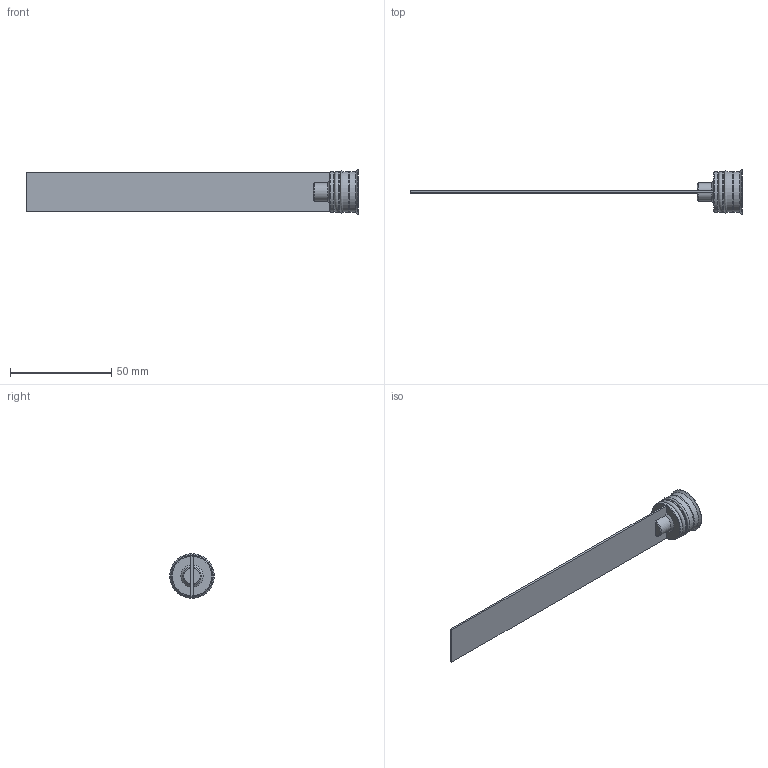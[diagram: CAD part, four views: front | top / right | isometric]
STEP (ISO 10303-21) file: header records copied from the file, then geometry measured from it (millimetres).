
FILE_DESCRIPTION( ( 'STEP AP214' ), '1' );
FILE_NAME( 'p:/temp/worker_239/temp/exporttempdir_2328_759_JC5UB/format_0/RL-20Fx150P (lama 19.5mm).stp', '2021-02-05T19:46:16', ( 'License CC BY-ND 4.0' ), ( 'CADENAS' ), ' ', 'PARTsolutions', ' ' );
FILE_SCHEMA( ( 'AUTOMOTIVE_DESIGN { 1 0 10303 214 1 1 1 1 }' ) );
Length unit declared in the file: millimetre
Products named in the file (1): _RL-20Fx150P (lama 19.5mm)
Bounding box: 164 x 22 x 22 mm (x, y, z)
Volume: 7508.5 mm3; surface area: 8488.4 mm2
Topology: 1 solids, 1 shells, 52 faces, 123 edges, 79 vertices
Faces by surface type: plane 28, cone 11, cylinder 10, torus 3
Full cylindrical faces by diameter (mm): 10 x1, 20 x4, 22 x1
Entity records: 1866 total; most frequent: CARTESIAN_POINT 287, DIRECTION 232, ORIENTED_EDGE 216, EDGE_CURVE 108, AXIS2_PLACEMENT_3D 85, VERTEX_POINT 80, EDGE_LOOP 72, LINE 62
